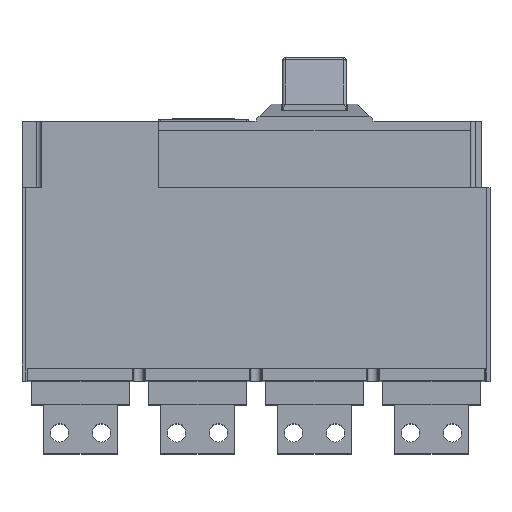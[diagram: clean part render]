
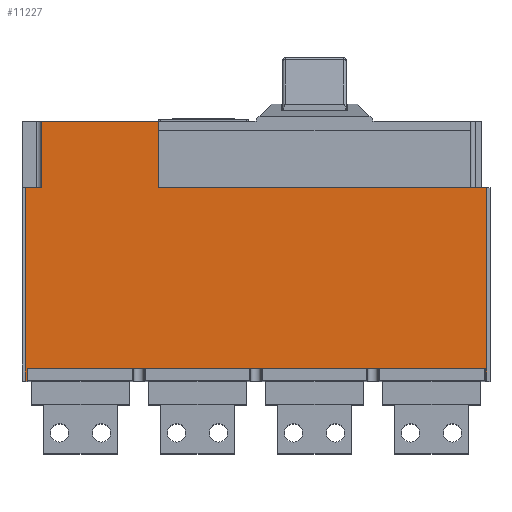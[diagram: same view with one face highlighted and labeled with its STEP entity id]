
A CAD part, top view. The second image highlights one B-rep face of the part: STEP entity #11227.
In plain terms, the highlighted planar face has unit normal (0, 0, 1).
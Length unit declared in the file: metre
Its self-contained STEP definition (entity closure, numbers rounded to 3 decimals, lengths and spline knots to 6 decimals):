
#1019=FACE_OUTER_BOUND('',#1735,.T.);
#1735=EDGE_LOOP('',(#10055,#10056,#10057,#10058,#10059,#10060,#10061,#10062,
#10063,#10064,#10065,#10066,#10067,#10068));
#1973=LINE('',#15557,#3340);
#2000=LINE('',#15614,#3367);
#2006=LINE('',#15625,#3373);
#2047=LINE('',#15747,#3414);
#2048=LINE('',#15749,#3415);
#2050=LINE('',#15753,#3417);
#2502=LINE('',#16773,#3869);
#2992=LINE('',#17866,#4359);
#3093=LINE('',#18117,#4460);
#3094=LINE('',#18119,#4461);
#3096=LINE('',#18123,#4463);
#3098=LINE('',#18126,#4465);
#3099=LINE('',#18129,#4466);
#3100=LINE('',#18130,#4467);
#3340=VECTOR('',#12573,0.002);
#3367=VECTOR('',#12622,0.1157);
#3373=VECTOR('',#12630,0.0075);
#3414=VECTOR('',#12753,0.2745);
#3415=VECTOR('',#12754,0.2745);
#3417=VECTOR('',#12758,0.0075);
#3869=VECTOR('',#13664,0.0398);
#4359=VECTOR('',#14652,0.07);
#4460=VECTOR('',#14917,0.0005);
#4461=VECTOR('',#14918,0.001);
#4463=VECTOR('',#14922,0.1157);
#4465=VECTOR('',#14926,0.0097);
#4466=VECTOR('',#14929,0.1963);
#4467=VECTOR('',#14930,0.0398);
#4666=VERTEX_POINT('',#15554);
#4667=VERTEX_POINT('',#15556);
#4685=VERTEX_POINT('',#15612);
#4686=VERTEX_POINT('',#15613);
#4687=VERTEX_POINT('',#15618);
#4690=VERTEX_POINT('',#15623);
#4731=VERTEX_POINT('',#15748);
#4732=VERTEX_POINT('',#15752);
#5072=VERTEX_POINT('',#16769);
#5073=VERTEX_POINT('',#16771);
#5427=VERTEX_POINT('',#17865);
#5496=VERTEX_POINT('',#18118);
#5497=VERTEX_POINT('',#18122);
#5498=VERTEX_POINT('',#18128);
#5767=EDGE_CURVE('',#4667,#4666,#1973,.T.);
#5794=EDGE_CURVE('',#4685,#4686,#2000,.T.);
#5800=EDGE_CURVE('',#4690,#4687,#2006,.T.);
#5861=EDGE_CURVE('',#4667,#4687,#2047,.T.);
#5862=EDGE_CURVE('',#4731,#4666,#2048,.T.);
#5864=EDGE_CURVE('',#4731,#4732,#2050,.T.);
#6360=EDGE_CURVE('',#5072,#5073,#2502,.T.);
#6895=EDGE_CURVE('',#5072,#5427,#2992,.T.);
#7023=EDGE_CURVE('',#4686,#4690,#3093,.T.);
#7024=EDGE_CURVE('',#4732,#5496,#3094,.T.);
#7026=EDGE_CURVE('',#5496,#5497,#3096,.T.);
#7028=EDGE_CURVE('',#5497,#5073,#3098,.T.);
#7029=EDGE_CURVE('',#5498,#4685,#3099,.T.);
#7030=EDGE_CURVE('',#5427,#5498,#3100,.T.);
#10055=ORIENTED_EDGE('',*,*,#7026,.F.);
#10056=ORIENTED_EDGE('',*,*,#7024,.F.);
#10057=ORIENTED_EDGE('',*,*,#5864,.F.);
#10058=ORIENTED_EDGE('',*,*,#5862,.T.);
#10059=ORIENTED_EDGE('',*,*,#5767,.F.);
#10060=ORIENTED_EDGE('',*,*,#5861,.T.);
#10061=ORIENTED_EDGE('',*,*,#5800,.F.);
#10062=ORIENTED_EDGE('',*,*,#7023,.F.);
#10063=ORIENTED_EDGE('',*,*,#5794,.F.);
#10064=ORIENTED_EDGE('',*,*,#7029,.F.);
#10065=ORIENTED_EDGE('',*,*,#7030,.F.);
#10066=ORIENTED_EDGE('',*,*,#6895,.F.);
#10067=ORIENTED_EDGE('',*,*,#6360,.T.);
#10068=ORIENTED_EDGE('',*,*,#7028,.F.);
#10620=PLANE('',#12017);
#11227=ADVANCED_FACE('',(#1019),#10620,.T.);
#12017=AXIS2_PLACEMENT_3D('',#18127,#14927,#14928);
#12573=DIRECTION('',(-1.,0.,0.));
#12622=DIRECTION('',(0.,-1.,0.));
#12630=DIRECTION('',(0.,1.,0.));
#12753=DIRECTION('',(1.,0.,0.));
#12754=DIRECTION('',(1.,0.,0.));
#12758=DIRECTION('',(0.,-1.,0.));
#13664=DIRECTION('',(0.,-1.,0.));
#14652=DIRECTION('',(1.,0.,0.));
#14917=DIRECTION('',(-1.,0.,0.));
#14918=DIRECTION('',(-1.,0.,0.));
#14922=DIRECTION('',(0.,1.,0.));
#14926=DIRECTION('',(1.,0.,0.));
#14927=DIRECTION('center_axis',(0.,0.,1.));
#14928=DIRECTION('ref_axis',(1.,0.,0.));
#14929=DIRECTION('',(1.,0.,0.));
#14930=DIRECTION('',(0.,-1.,0.));
#15554=CARTESIAN_POINT('',(-0.105,-0.1082,0.117));
#15556=CARTESIAN_POINT('',(-0.103,-0.1082,0.117));
#15557=CARTESIAN_POINT('',(-0.103,-0.1082,0.117));
#15612=CARTESIAN_POINT('',(0.103,0.,0.117));
#15613=CARTESIAN_POINT('',(0.103,-0.1157,0.117));
#15614=CARTESIAN_POINT('',(0.103,0.,0.117));
#15618=CARTESIAN_POINT('',(0.1025,-0.1082,0.117));
#15623=CARTESIAN_POINT('',(0.1025,-0.1157,0.117));
#15625=CARTESIAN_POINT('',(0.1025,-0.1157,0.117));
#15747=CARTESIAN_POINT('',(-0.172,-0.1082,0.117));
#15748=CARTESIAN_POINT('',(-0.172,-0.1082,0.117));
#15749=CARTESIAN_POINT('',(-0.172,-0.1082,0.117));
#15752=CARTESIAN_POINT('',(-0.172,-0.1157,0.117));
#15753=CARTESIAN_POINT('',(-0.172,-0.1082,0.117));
#16769=CARTESIAN_POINT('',(-0.1633,0.0398,0.117));
#16771=CARTESIAN_POINT('',(-0.1633,0.,0.117));
#16773=CARTESIAN_POINT('',(-0.1633,0.0398,0.117));
#17865=CARTESIAN_POINT('',(-0.0933,0.0398,0.117));
#17866=CARTESIAN_POINT('',(-0.1633,0.0398,0.117));
#18117=CARTESIAN_POINT('',(0.103,-0.1157,0.117));
#18118=CARTESIAN_POINT('',(-0.173,-0.1157,0.117));
#18119=CARTESIAN_POINT('',(-0.172,-0.1157,0.117));
#18122=CARTESIAN_POINT('',(-0.173,0.,0.117));
#18123=CARTESIAN_POINT('',(-0.173,-0.1157,0.117));
#18126=CARTESIAN_POINT('',(-0.173,0.,0.117));
#18127=CARTESIAN_POINT('Origin',(-0.103,0.,0.117));
#18128=CARTESIAN_POINT('',(-0.0933,0.,0.117));
#18129=CARTESIAN_POINT('',(-0.0933,0.,0.117));
#18130=CARTESIAN_POINT('',(-0.0933,0.0398,0.117));
